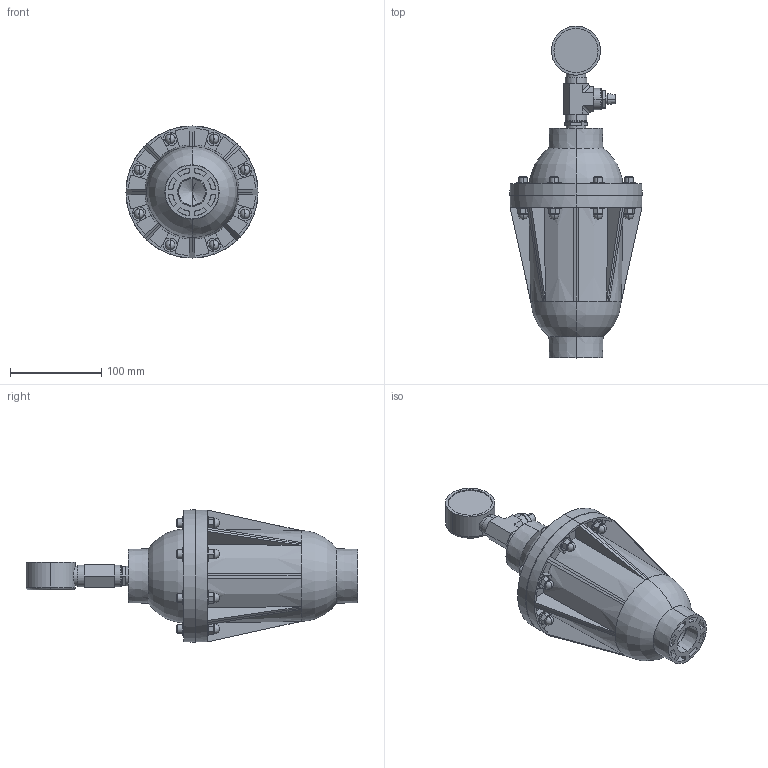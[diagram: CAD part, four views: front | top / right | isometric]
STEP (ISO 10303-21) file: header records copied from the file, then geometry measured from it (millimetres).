
FILE_DESCRIPTION (( 'STEP AP203' ), '1' );
FILE_NAME ('PD0032.STEP', '2016-01-18T10:49:04', ( '' ), ( '' ), 'SwSTEP 2.0', 'SolidWorks 2014', '' );
FILE_SCHEMA (( 'CONFIG_CONTROL_DESIGN' ));
Length unit declared in the file: inch
Products named in the file (2): PD0032
Bounding box: 144.78 x 363.6 x 144.78 mm (x, y, z)
Volume: 1926070.4 mm3; surface area: 171416.3 mm2
Topology: 1 solids, 1 shells, 557 faces, 1332 edges, 858 vertices
Faces by surface type: plane 317, cylinder 110, cone 102, torus 28
Entity records: 16560 total; most frequent: CARTESIAN_POINT 3151, DIRECTION 2869, ORIENTED_EDGE 2660, EDGE_CURVE 1330, AXIS2_PLACEMENT_3D 1052, VERTEX_POINT 858, VECTOR 765, LINE 765
